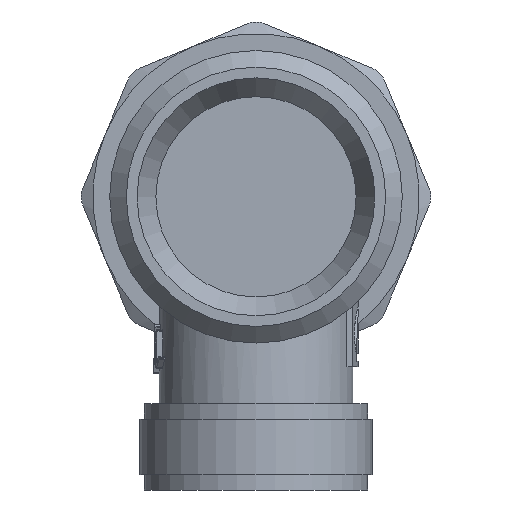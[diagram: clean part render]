
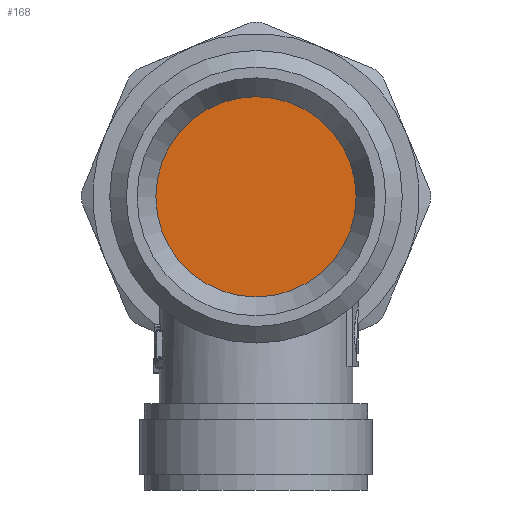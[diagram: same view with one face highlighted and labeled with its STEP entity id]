
A CAD part, front view. The second image highlights one B-rep face of the part: STEP entity #168.
In plain terms, the highlighted planar face has unit normal (0, -1, 0).
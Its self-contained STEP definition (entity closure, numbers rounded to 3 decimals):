
#168=ADVANCED_FACE('',(#1052),#1054,.F.);
#1052=FACE_BOUND('',#1053,.T.);
#1053=EDGE_LOOP('',(#1864));
#1054=PLANE('',#1055);
#1055=AXIS2_PLACEMENT_3D('',#1056,#1057,#1058);
#1056=CARTESIAN_POINT('',(0.,8.,0.));
#1057=DIRECTION('',(0.,1.,0.));
#1058=DIRECTION('',(-1.,0.,0.));
#1864=ORIENTED_EDGE('',*,*,#2186,.T.);
#2186=EDGE_CURVE('',#2832,#2832,#2833,.T.);
#2832=VERTEX_POINT('',#6572);
#2833=CIRCLE('',#6573,9.05);
#6572=CARTESIAN_POINT('',(-9.05,8.,0.));
#6573=AXIS2_PLACEMENT_3D('',#6574,#6575,#6576);
#6574=CARTESIAN_POINT('',(0.,8.,0.));
#6575=DIRECTION('',(0.,-1.,0.));
#6576=DIRECTION('',(-1.,0.,0.));
